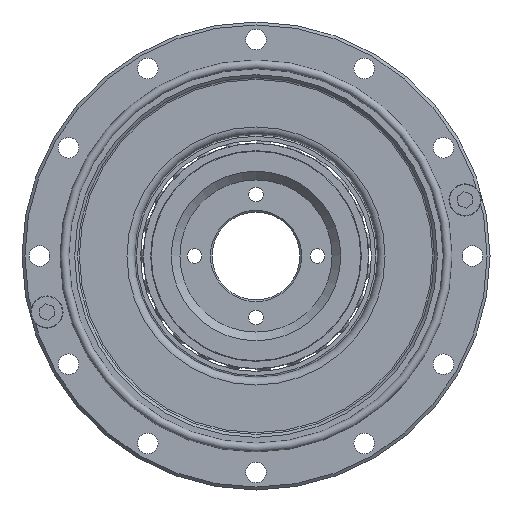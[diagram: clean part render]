
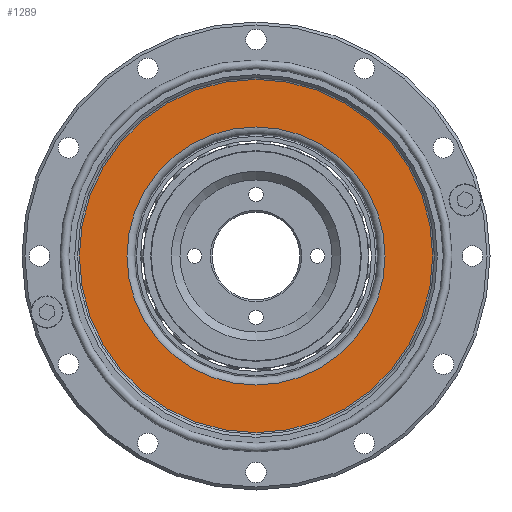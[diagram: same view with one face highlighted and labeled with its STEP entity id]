
A CAD part, left-side view. The second image highlights one B-rep face of the part: STEP entity #1289.
In plain terms, the highlighted planar face has unit normal (-1, 0, 0).
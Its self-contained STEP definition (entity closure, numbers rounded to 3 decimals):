
#57 = DIRECTION ( 'NONE',  ( -1., 0., 0. ) ) ;
#157 = ORIENTED_EDGE ( 'NONE', *, *, #2741, .F. ) ;
#160 = DIRECTION ( 'NONE',  ( 0., 0., 1. ) ) ;
#164 = FACE_BOUND ( 'NONE', #4634, .T. ) ;
#1010 = CIRCLE ( 'NONE', #4286, 30.2 ) ;
#1289 = ADVANCED_FACE ( 'NONE', ( #164, #6536 ), #1726, .F. ) ;
#1726 = PLANE ( 'NONE',  #1870 ) ;
#1870 = AXIS2_PLACEMENT_3D ( 'NONE', #5608, #6141, #2410 ) ;
#2410 = DIRECTION ( 'NONE',  ( 0., 0., -1. ) ) ;
#2741 = EDGE_CURVE ( 'NONE', #7758, #7758, #3785, .T. ) ;
#3039 = AXIS2_PLACEMENT_3D ( 'NONE', #3821, #57, #4459 ) ;
#3212 = EDGE_LOOP ( 'NONE', ( #5161 ) ) ;
#3326 = EDGE_CURVE ( 'NONE', #7167, #7167, #1010, .T. ) ;
#3785 = CIRCLE ( 'NONE', #3039, 22.061 ) ;
#3821 = CARTESIAN_POINT ( 'NONE',  ( 2.728, 0., 0. ) ) ;
#3926 = DIRECTION ( 'NONE',  ( -1., 0., 0. ) ) ;
#4286 = AXIS2_PLACEMENT_3D ( 'NONE', #7774, #3926, #160 ) ;
#4459 = DIRECTION ( 'NONE',  ( 0., 0., 1. ) ) ;
#4634 = EDGE_LOOP ( 'NONE', ( #157 ) ) ;
#5161 = ORIENTED_EDGE ( 'NONE', *, *, #3326, .T. ) ;
#5608 = CARTESIAN_POINT ( 'NONE',  ( 2.728, 0., 0. ) ) ;
#6141 = DIRECTION ( 'NONE',  ( 1., 0., 0. ) ) ;
#6479 = CARTESIAN_POINT ( 'NONE',  ( 2.728, 0., 22.061 ) ) ;
#6536 = FACE_OUTER_BOUND ( 'NONE', #3212, .T. ) ;
#7148 = CARTESIAN_POINT ( 'NONE',  ( 2.728, 0., 30.2 ) ) ;
#7167 = VERTEX_POINT ( 'NONE', #7148 ) ;
#7758 = VERTEX_POINT ( 'NONE', #6479 ) ;
#7774 = CARTESIAN_POINT ( 'NONE',  ( 2.728, 0., 0. ) ) ;
